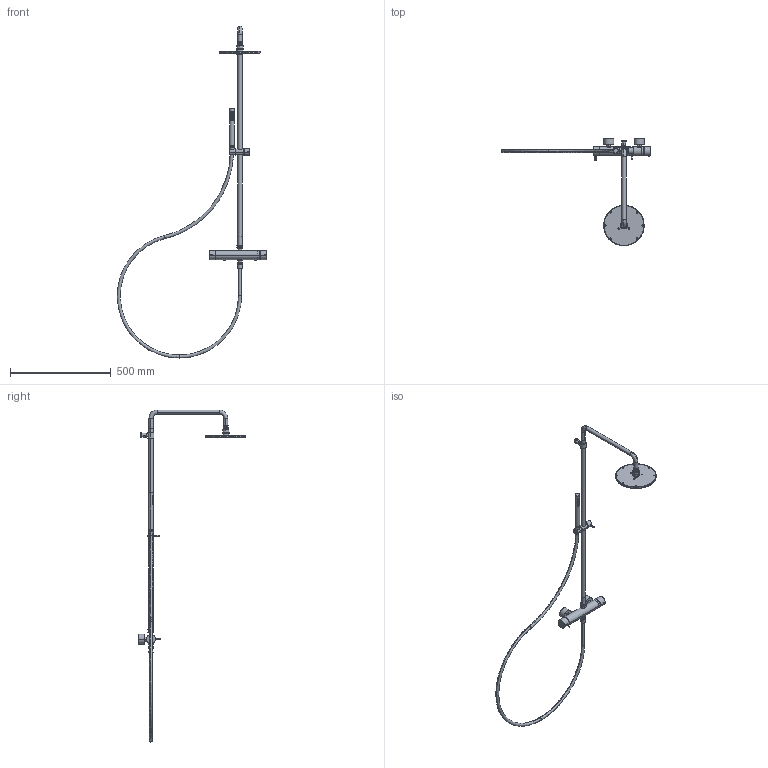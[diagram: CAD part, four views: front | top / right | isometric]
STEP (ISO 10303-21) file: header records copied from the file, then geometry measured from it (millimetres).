
FILE_DESCRIPTION (( 'STEP AP214' ), '1' );
FILE_NAME ('T1.41TN_3D.STEP', '2024-07-31T10:32:36', ( '' ), ( '' ), 'SwSTEP 2.0', 'SolidWorks 2022', '' );
FILE_SCHEMA (( 'AUTOMOTIVE_DESIGN' ));
Length unit declared in the file: millimetre
Products named in the file (1): T1.41TN_3D
Bounding box: 739.81 x 533.5 x 1643.78 mm (x, y, z)
Volume: 2211010.3 mm3; surface area: 633399.7 mm2
Topology: 251 solids, 251 shells, 3391 faces, 6926 edges, 4251 vertices
Faces by surface type: bspline 1333, cylinder 935, plane 882, cone 241
Entity records: 135401 total; most frequent: CARTESIAN_POINT 66274, ORIENTED_EDGE 13840, DIRECTION 13726, EDGE_CURVE 6920, AXIS2_PLACEMENT_3D 6054, VERTEX_POINT 4251, CIRCLE 3995, EDGE_LOOP 3757
